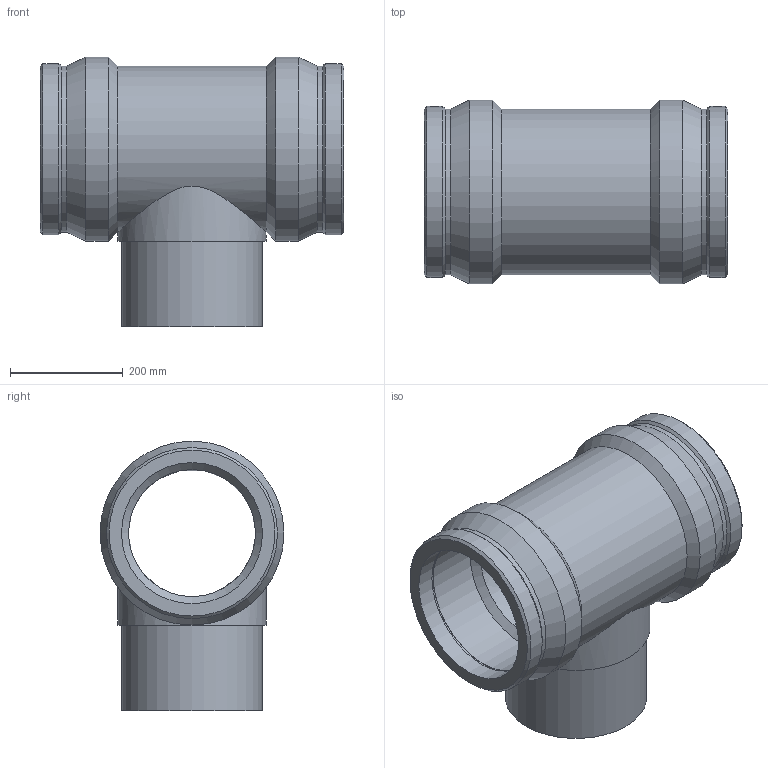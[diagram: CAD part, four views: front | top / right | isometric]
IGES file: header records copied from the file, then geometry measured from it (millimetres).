
Global section: file name: 490404250.ipt; native system: Autodesk Inventor 2015; preprocessor: unknown; author: KIM; date: 20190124.130205; units: millimetre
Bounding box: 538 x 326 x 478 mm (x, y, z)
Volume: 17329755 mm3; surface area: 1219541.3 mm2
Topology: 1 solids, 1 shells, 45 faces, 101 edges, 66 vertices
Faces by surface type: plane 12, revolution 12, cylinder 11, cone 10
Full cylindrical faces by diameter (mm): 4 x2, 250 x1, 262.5 x1, 293.4 x1, 294.085 x2, 303.18 x2, 326 x2
